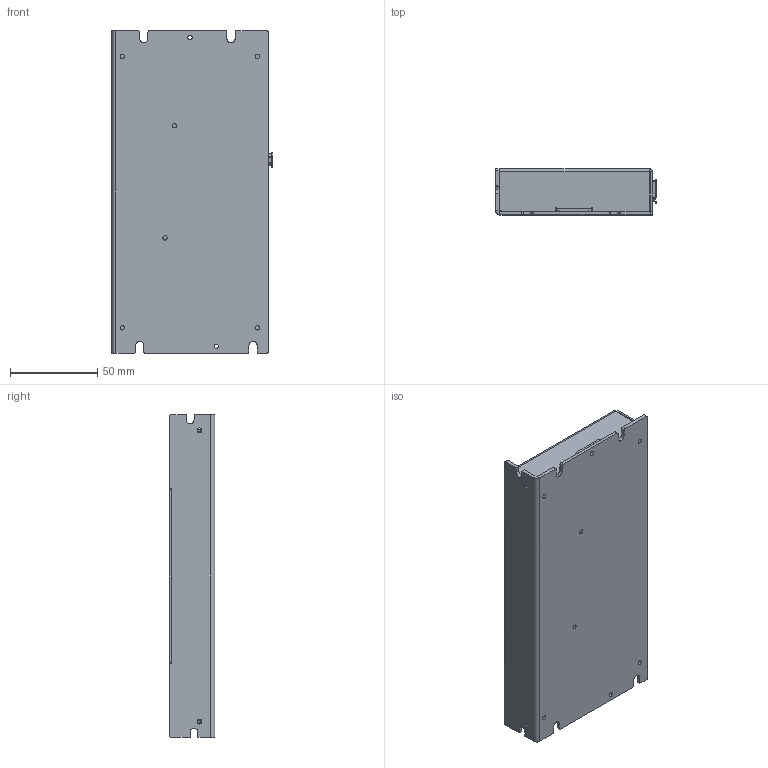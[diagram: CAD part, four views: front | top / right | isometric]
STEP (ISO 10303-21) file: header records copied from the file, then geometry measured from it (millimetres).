
FILE_DESCRIPTION (( 'STEP AP214' ), '1' );
FILE_NAME ('DE智能电批驱动盒-第四版.STEP', '2026-08-17T08:39:58', ( 'Windows User' ), ( 'P R C' ), 'SwSTEP 2.0', 'SolidWorks 2025', '' );
FILE_SCHEMA (( 'AUTOMOTIVE_DESIGN' ));
Length unit declared in the file: millimetre
Products named in the file (1): DE智能电批驱动盒-第四版
Bounding box: 92.25 x 26.2 x 185 mm (x, y, z)
Surface area: 108533 mm2 (no closed solid volume)
Topology: 0 solids, 504 shells, 2588 faces, 11911 edges, 9587 vertices
Faces by surface type: plane 1757, bspline 596, cylinder 219, sphere 14, cone 2
Entity records: 154664 total; most frequent: CARTESIAN_POINT 71509, ORIENTED_EDGE 16097, DIRECTION 12388, EDGE_CURVE 11859, VERTEX_POINT 9579, LINE 6936, VECTOR 6936, B_SPLINE_CURVE_WITH_KNOTS 4104
